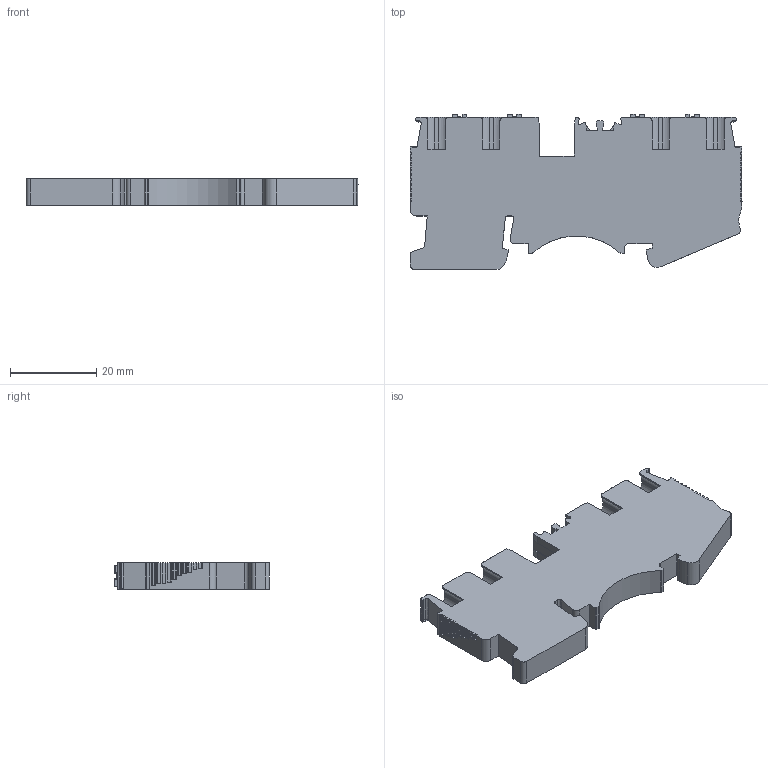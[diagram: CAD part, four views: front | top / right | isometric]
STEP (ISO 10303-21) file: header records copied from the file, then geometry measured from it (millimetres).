
FILE_DESCRIPTION (( 'STEP AP214' ), '1' );
FILE_NAME ('DS4-QU-01P-1Y-00AH-20200418.STEP', '2021-08-20T01:11:28', ( 'User' ), ( 'china' ), 'SwSTEP 2.0', 'SolidWorks 2015', '' );
FILE_SCHEMA (( 'AUTOMOTIVE_DESIGN' ));
Length unit declared in the file: millimetre
Products named in the file (1): DS4-QU-01P-1Y-00AH-20200418
Bounding box: 77 x 35.94 x 6.2 mm (x, y, z)
Surface area: 7157.6 mm2 (no closed solid volume)
Topology: 0 solids, 1 shells, 813 faces, 2253 edges, 1420 vertices
Faces by surface type: plane 469, cylinder 233, sphere 56, bspline 27, torus 22, cone 6
Entity records: 26285 total; most frequent: CARTESIAN_POINT 7176, ORIENTED_EDGE 4262, DIRECTION 3577, EDGE_CURVE 2131, VECTOR 1383, LINE 1383, VERTEX_POINT 1346, AXIS2_PLACEMENT_3D 1097
